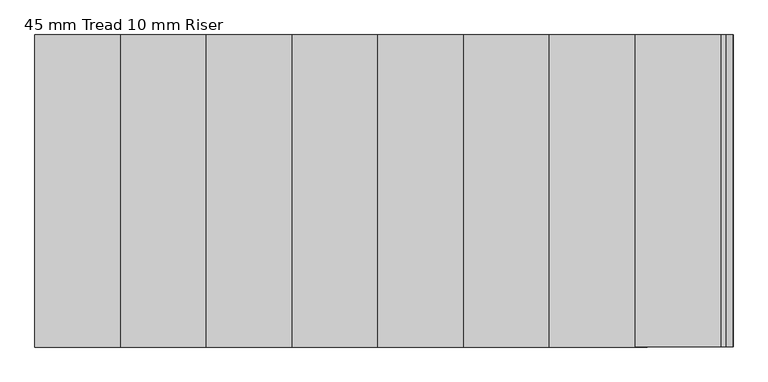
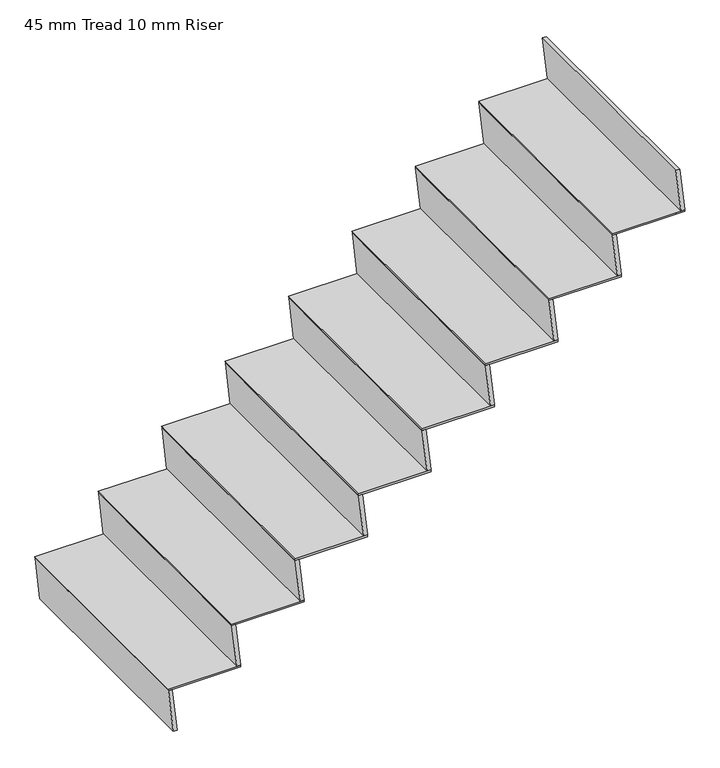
"""IFC4 building model written with IfcOpenShell, lengths in millimetres: stair flight geometry, 45 mm Tread 10 mm Riser."""

from ifc_helpers import new_model, si_unit, origin, place, context, project, spatial, faceted_brep, source, transform, mapped, element, save


def stair_flight_45_mm_tread_10_mm_riser_4c90028d(model_context):
    return source(origin(), model_context, "Body", "Brep", [
        faceted_brep([(12713.3181818, 6790.0, 275.8333333), (12732.5, 6790.0, 100.0), (12747.5889922, 6790.0, 100.0), (12728.407174, 6790.0, 275.8333333), (12713.3181818, 7700.0, 275.8333333), (12728.407174, 7700.0, 275.8333333), (12747.5889922, 7700.0, 100.0), (12732.5, 7700.0, 100.0)], [[[0, 1, 2, 3]], [[4, 5, 6, 7]], [[1, 0, 4, 7]], [[2, 1, 7, 6]], [[3, 2, 6, 5]], [[0, 3, 5, 4]]]),
        faceted_brep([(12997.5889922, 7700.0, 283.3333333), (12712.5, 7700.0, 283.3333333), (12712.5, 6790.0, 283.3333333), (12997.5889922, 6790.0, 283.3333333), (12998.407174, 7700.0, 275.8333333), (12998.407174, 6790.0, 275.8333333), (12713.3181818, 6790.0, 275.8333333), (12713.3181818, 7700.0, 275.8333333)], [[[0, 1, 2, 3]], [[4, 5, 6, 7]], [[1, 0, 4, 7]], [[3, 2, 6, 5]], [[3, 5, 4, 0]], [[2, 1, 7, 6]]]),
        faceted_brep([(12963.3181818, 6790.0, 459.1666667), (12982.5, 6790.0, 283.3333333), (12997.5889922, 6790.0, 283.3333333), (12978.407174, 6790.0, 459.1666667), (12963.3181818, 7700.0, 459.1666667), (12978.407174, 7700.0, 459.1666667), (12997.5889922, 7700.0, 283.3333333), (12982.5, 7700.0, 283.3333333)], [[[0, 1, 2, 3]], [[4, 5, 6, 7]], [[1, 0, 4, 7]], [[2, 1, 7, 6]], [[3, 2, 6, 5]], [[0, 3, 5, 4]]]),
        faceted_brep([(13247.5889922, 7700.0, 466.6666667), (12962.5, 7700.0, 466.6666667), (12962.5, 6790.0, 466.6666667), (13247.5889922, 6790.0, 466.6666667), (13248.407174, 7700.0, 459.1666667), (13248.407174, 6790.0, 459.1666667), (12963.3181818, 6790.0, 459.1666667), (12963.3181818, 7700.0, 459.1666667)], [[[0, 1, 2, 3]], [[4, 5, 6, 7]], [[1, 0, 4, 7]], [[3, 2, 6, 5]], [[3, 5, 4, 0]], [[2, 1, 7, 6]]]),
        faceted_brep([(13213.3181818, 6790.0, 642.5), (13232.5, 6790.0, 466.6666667), (13247.5889922, 6790.0, 466.6666667), (13228.407174, 6790.0, 642.5), (13213.3181818, 7700.0, 642.5), (13228.407174, 7700.0, 642.5), (13247.5889922, 7700.0, 466.6666667), (13232.5, 7700.0, 466.6666667)], [[[0, 1, 2, 3]], [[4, 5, 6, 7]], [[1, 0, 4, 7]], [[2, 1, 7, 6]], [[3, 2, 6, 5]], [[0, 3, 5, 4]]]),
        faceted_brep([(13497.5889922, 7700.0, 650.0), (13212.5, 7700.0, 650.0), (13212.5, 6790.0, 650.0), (13497.5889922, 6790.0, 650.0), (13498.407174, 7700.0, 642.5), (13498.407174, 6790.0, 642.5), (13213.3181818, 6790.0, 642.5), (13213.3181818, 7700.0, 642.5)], [[[0, 1, 2, 3]], [[4, 5, 6, 7]], [[1, 0, 4, 7]], [[3, 2, 6, 5]], [[3, 5, 4, 0]], [[2, 1, 7, 6]]]),
        faceted_brep([(13463.3181818, 6790.0, 825.8333333), (13482.5, 6790.0, 650.0), (13497.5889922, 6790.0, 650.0), (13478.407174, 6790.0, 825.8333333), (13463.3181818, 7700.0, 825.8333333), (13478.407174, 7700.0, 825.8333333), (13497.5889922, 7700.0, 650.0), (13482.5, 7700.0, 650.0)], [[[0, 1, 2, 3]], [[4, 5, 6, 7]], [[1, 0, 4, 7]], [[2, 1, 7, 6]], [[3, 2, 6, 5]], [[0, 3, 5, 4]]]),
        faceted_brep([(13747.5889922, 7700.0, 833.3333333), (13462.5, 7700.0, 833.3333333), (13462.5, 6790.0, 833.3333333), (13747.5889922, 6790.0, 833.3333333), (13748.407174, 7700.0, 825.8333333), (13748.407174, 6790.0, 825.8333333), (13463.3181818, 6790.0, 825.8333333), (13463.3181818, 7700.0, 825.8333333)], [[[0, 1, 2, 3]], [[4, 5, 6, 7]], [[1, 0, 4, 7]], [[3, 2, 6, 5]], [[3, 5, 4, 0]], [[2, 1, 7, 6]]]),
        faceted_brep([(13713.3181818, 6790.0, 1009.1666667), (13732.5, 6790.0, 833.3333333), (13747.5889922, 6790.0, 833.3333333), (13728.407174, 6790.0, 1009.1666667), (13713.3181818, 7700.0, 1009.1666667), (13728.407174, 7700.0, 1009.1666667), (13747.5889922, 7700.0, 833.3333333), (13732.5, 7700.0, 833.3333333)], [[[0, 1, 2, 3]], [[4, 5, 6, 7]], [[1, 0, 4, 7]], [[2, 1, 7, 6]], [[3, 2, 6, 5]], [[0, 3, 5, 4]]]),
        faceted_brep([(13997.5889922, 7700.0, 1016.6666667), (13712.5, 7700.0, 1016.6666667), (13712.5, 6790.0, 1016.6666667), (13997.5889922, 6790.0, 1016.6666667), (13998.407174, 7700.0, 1009.1666667), (13998.407174, 6790.0, 1009.1666667), (13713.3181818, 6790.0, 1009.1666667), (13713.3181818, 7700.0, 1009.1666667)], [[[0, 1, 2, 3]], [[4, 5, 6, 7]], [[1, 0, 4, 7]], [[3, 2, 6, 5]], [[3, 5, 4, 0]], [[2, 1, 7, 6]]]),
        faceted_brep([(13963.3181818, 6790.0, 1192.5), (13982.5, 6790.0, 1016.6666667), (13997.5889922, 6790.0, 1016.6666667), (13978.407174, 6790.0, 1192.5), (13963.3181818, 7700.0, 1192.5), (13978.407174, 7700.0, 1192.5), (13997.5889922, 7700.0, 1016.6666667), (13982.5, 7700.0, 1016.6666667)], [[[0, 1, 2, 3]], [[4, 5, 6, 7]], [[1, 0, 4, 7]], [[2, 1, 7, 6]], [[3, 2, 6, 5]], [[0, 3, 5, 4]]]),
        faceted_brep([(14247.5889922, 7700.0, 1200.0), (13962.5, 7700.0, 1200.0), (13962.5, 6790.0, 1200.0), (14247.5889922, 6790.0, 1200.0), (14248.407174, 7700.0, 1192.5), (14248.407174, 6790.0, 1192.5), (13963.3181818, 6790.0, 1192.5), (13963.3181818, 7700.0, 1192.5)], [[[0, 1, 2, 3]], [[4, 5, 6, 7]], [[1, 0, 4, 7]], [[3, 2, 6, 5]], [[3, 5, 4, 0]], [[2, 1, 7, 6]]]),
        faceted_brep([(14213.3181818, 6790.0, 1375.8333333), (14232.5, 6790.0, 1200.0), (14247.5889922, 6790.0, 1200.0), (14228.407174, 6790.0, 1375.8333333), (14213.3181818, 7700.0, 1375.8333333), (14228.407174, 7700.0, 1375.8333333), (14247.5889922, 7700.0, 1200.0), (14232.5, 7700.0, 1200.0)], [[[0, 1, 2, 3]], [[4, 5, 6, 7]], [[1, 0, 4, 7]], [[2, 1, 7, 6]], [[3, 2, 6, 5]], [[0, 3, 5, 4]]]),
        faceted_brep([(14497.5889922, 7700.0, 1383.3333333), (14212.5, 7700.0, 1383.3333333), (14212.5, 6790.0, 1383.3333333), (14497.5889922, 6790.0, 1383.3333333), (14498.407174, 7700.0, 1375.8333333), (14498.407174, 6790.0, 1375.8333333), (14213.3181818, 6790.0, 1375.8333333), (14213.3181818, 7700.0, 1375.8333333)], [[[0, 1, 2, 3]], [[4, 5, 6, 7]], [[1, 0, 4, 7]], [[3, 2, 6, 5]], [[3, 5, 4, 0]], [[2, 1, 7, 6]]]),
        faceted_brep([(14713.3181818, 6790.0, 1742.5), (14732.5, 6790.0, 1566.6666667), (14747.5889922, 6790.0, 1566.6666667), (14728.407174, 6790.0, 1742.5), (14713.3181818, 7700.0000224, 1742.5), (14728.407174, 7700.0000224, 1742.5), (14747.5889922, 7700.0000224, 1566.6666667), (14732.5, 7700.0000224, 1566.6666667)], [[[0, 1, 2, 3]], [[4, 5, 6, 7]], [[1, 0, 4, 7]], [[2, 1, 7, 6]], [[3, 2, 6, 5]], [[0, 3, 5, 4]]]),
        faceted_brep([(14463.3181818, 6790.0, 1559.1666667), (14482.5, 6790.0, 1383.3333333), (14497.5889922, 6790.0, 1383.3333333), (14478.407174, 6790.0, 1559.1666667), (14463.3181818, 7700.0, 1559.1666667), (14478.407174, 7700.0, 1559.1666667), (14497.5889922, 7700.0, 1383.3333333), (14482.5, 7700.0, 1383.3333333)], [[[0, 1, 2, 3]], [[4, 5, 6, 7]], [[1, 0, 4, 7]], [[2, 1, 7, 6]], [[3, 2, 6, 5]], [[0, 3, 5, 4]]]),
        faceted_brep([(14747.5889922, 7700.0000224, 1566.6666667), (14712.5, 7700.0000224, 1566.6666667), (14462.5, 7700.0, 1566.6666667), (14462.5, 6790.0, 1566.6666667), (14712.5, 6790.0, 1566.6666667), (14747.5889922, 6790.0, 1566.6666667), (14748.407174, 7700.0000224, 1559.1666667), (14748.407174, 6790.0, 1559.1666667), (14712.5, 6790.0, 1559.1666667), (14463.3181818, 6790.0, 1559.1666667), (14463.3181818, 7700.0, 1559.1666667), (14712.5, 7700.0, 1559.1666667)], [[[0, 1, 2, 3, 4, 5]], [[6, 7, 8, 9, 10, 11]], [[1, 0, 6, 11]], [[2, 1, 11, 10]], [[4, 3, 9, 8]], [[5, 4, 8, 7]], [[5, 7, 6, 0]], [[3, 2, 10, 9]]]),
    ])


if __name__ == "__main__":
    model = new_model("IFC4")
    model_context = context("Model", 3, world=origin())
    ifc_project = project(units=[si_unit("LENGTHUNIT", "METRE", prefix="MILLI")], contexts=[model_context])
    site = spatial("IfcSite", under=ifc_project)
    building = spatial("IfcBuilding", under=site)
    placement = place(None, origin())
    stair_flight_45_mm_tread_10_mm_riser_shape = stair_flight_45_mm_tread_10_mm_riser_4c90028d(model_context)
    element("IfcStairFlight", 1, ObjectType="45 mm Tread 10 mm Riser", at=placement, inside=building, context=model_context, shape_type="MappedRepresentation", body=[
        mapped(stair_flight_45_mm_tread_10_mm_riser_shape, transform((0.0, 0.0, 0.0), x_axis=(1.0, 0.0, 0.0), y_axis=(0.0, 1.0, 0.0), z_axis=(0.0, 0.0, 1.0))),
    ])
    save(model, "model.ifc")
